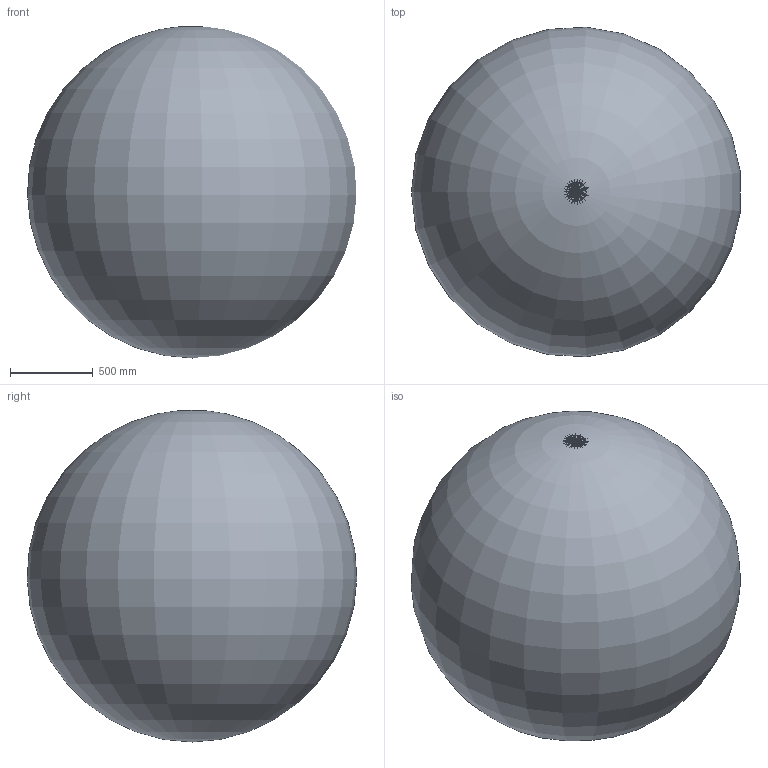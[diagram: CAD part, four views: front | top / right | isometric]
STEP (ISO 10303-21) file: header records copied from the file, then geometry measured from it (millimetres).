
FILE_DESCRIPTION(('STEP AP242'), '1');
FILE_NAME('ﾑ韭 聰鈞 ﾐﾂﾃ-ﾀ G400 DN100', '', ('UNSPECIFIED'), ('UNSPECIFIED'), 'C3D Converter', 'C3D Toolkit', '');
FILE_SCHEMA(('AP242_MANAGED_MODEL_BASED_3D_ENGINEERING_MIM_LF { 1 0 10303 442 1 1 4 }'));
Length unit declared in the file: millimetre
Bounding box: 1981.87 x 1985.23 x 2000.07 mm (x, y, z)
Volume: 4146166662.6 mm3; surface area: 13568832.7 mm2
Topology: 28 solids, 28 shells, 1757 faces, 4440 edges, 2821 vertices
Faces by surface type: cylinder 617, plane 581, cone 300, torus 152, bspline 104, extrusion 2, sphere 1
Full cylindrical faces by diameter (mm): 2 x10, 2.5 x4, 3.1 x1, 3.2 x2, 4 x7, 4.3 x2, 5 x14, 6 x6, 6.75 x2, 7 x2, 7.8 x4, 7.9 x6, 8 x12, 9 x3, 9.264 x2, 10 x5, 10.2 x12, 10.5 x1, 12 x12, 13 x12, 13.9 x16, 14 x5, 15 x1, 18 x13, 22 x2, 28 x2, 30 x1, 39 x1, 42.03 x1, 43.03 x1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
Entity records: 108855 total; most frequent: CARTESIAN_POINT 55777, ORIENTED_EDGE 7904, DIRECTION 7610, EDGE_CURVE 3952, AXIS2_PLACEMENT_3D 3085, VERTEX_POINT 2759, EDGE_LOOP 2349, COLOUR_RGB 1785
